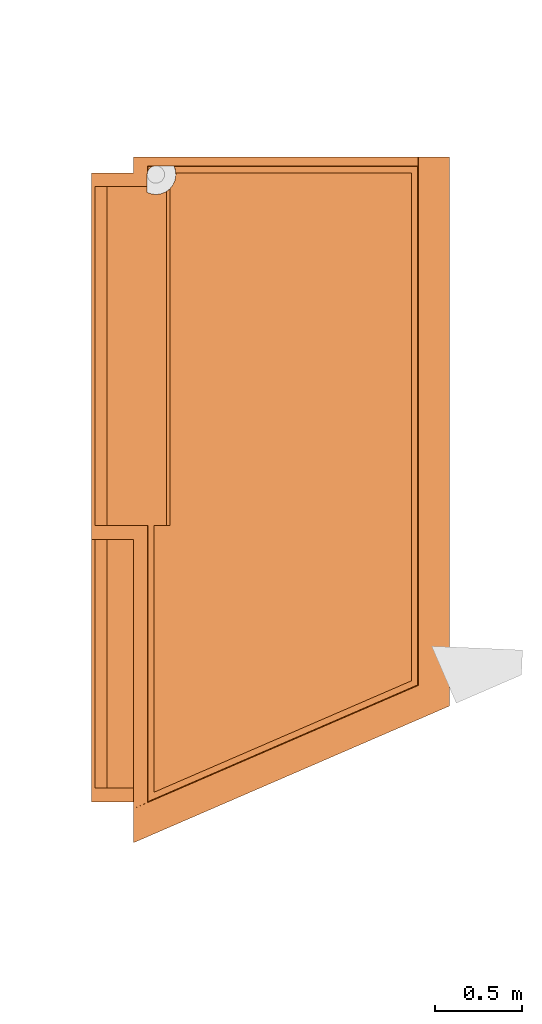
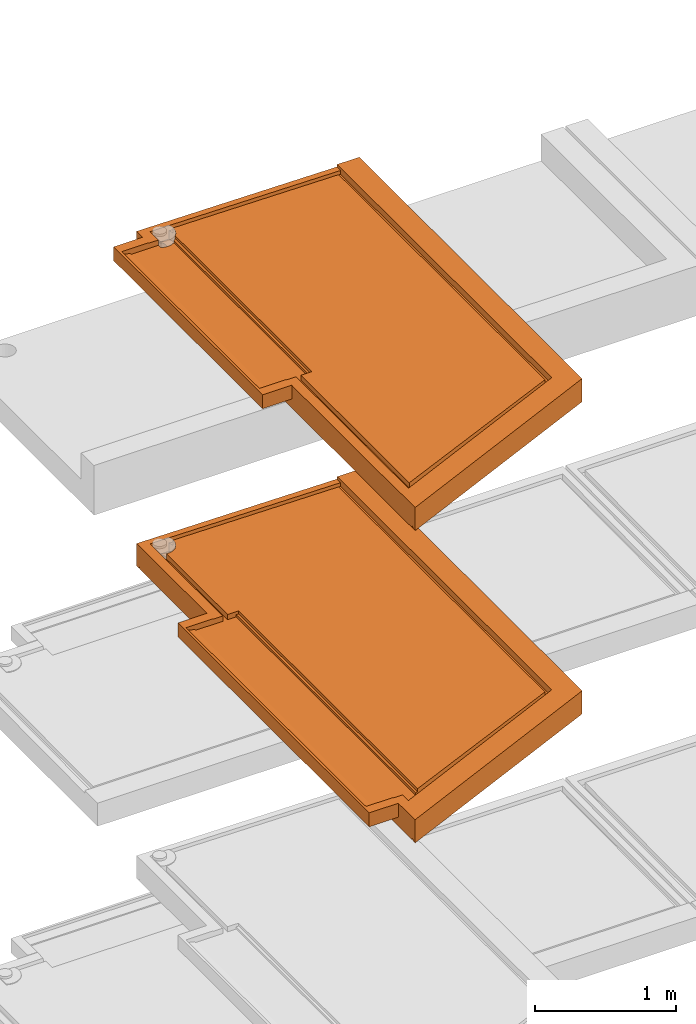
# One storey, part 5 of 31: 2 proxies, 2 elements without a shape of their own.
"""IFC2X3 building model written with IfcOpenShell, lengths in centimetres."""

from ifc_helpers import new_model, entity, si_unit, converted_unit, derived_unit, direction, frame, origin, place, context, subcontext, project, spatial, faceted_brep, source, transform, mapped, material, type_object, type_shapes, element, aggregate, save


model = new_model("IFC2X3")

# Units and contexts
model_context = context("Model", 3, precision=0.001, world=origin(), true_north=direction((6.12303176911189e-17, 1.0)))
body_context = subcontext(model_context, "Body", "Model", "MODEL_VIEW")
ifc_project = project(units=[si_unit("LENGTHUNIT", "METRE", prefix="CENTI"), si_unit("AREAUNIT", "SQUARE_METRE"), si_unit("VOLUMEUNIT", "CUBIC_METRE"), converted_unit("PLANEANGLEUNIT", "DEGREE", entity("IfcRatioMeasure", 0.0174532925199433), si_unit("PLANEANGLEUNIT", "RADIAN"), dimensions=[0, 0, 0, 0, 0, 0, 0]), si_unit("MASSUNIT", "GRAM", prefix="KILO"), derived_unit("MASSDENSITYUNIT", [(si_unit("MASSUNIT", "GRAM", prefix="KILO"), 1), (si_unit("LENGTHUNIT", "METRE"), -3)]), si_unit("TIMEUNIT", "SECOND"), si_unit("FREQUENCYUNIT", "HERTZ"), si_unit("THERMODYNAMICTEMPERATUREUNIT", "DEGREE_CELSIUS"), derived_unit("THERMALTRANSMITTANCEUNIT", [(si_unit("MASSUNIT", "GRAM", prefix="KILO"), 1), (si_unit("THERMODYNAMICTEMPERATUREUNIT", "KELVIN"), -1), (si_unit("TIMEUNIT", "SECOND"), -3)]), derived_unit("VOLUMETRICFLOWRATEUNIT", [(si_unit("LENGTHUNIT", "METRE"), 3), (si_unit("TIMEUNIT", "SECOND"), -1)]), si_unit("ELECTRICCURRENTUNIT", "AMPERE"), si_unit("ELECTRICVOLTAGEUNIT", "VOLT"), si_unit("POWERUNIT", "WATT"), si_unit("FORCEUNIT", "NEWTON"), si_unit("ILLUMINANCEUNIT", "LUX"), si_unit("LUMINOUSFLUXUNIT", "LUMEN"), si_unit("LUMINOUSINTENSITYUNIT", "CANDELA"), derived_unit("USERDEFINED", [(si_unit("MASSUNIT", "GRAM", prefix="KILO"), -1), (si_unit("LENGTHUNIT", "METRE"), -2), (si_unit("TIMEUNIT", "SECOND"), 3), (si_unit("LUMINOUSFLUXUNIT", "LUMEN"), 1)]), derived_unit("LINEARVELOCITYUNIT", [(si_unit("LENGTHUNIT", "METRE"), 1), (si_unit("TIMEUNIT", "SECOND"), -1)]), si_unit("PRESSUREUNIT", "PASCAL"), derived_unit("USERDEFINED", [(si_unit("LENGTHUNIT", "METRE"), -2), (si_unit("MASSUNIT", "GRAM", prefix="KILO"), 1), (si_unit("TIMEUNIT", "SECOND"), -2)])], contexts=[model_context])

# Site, building, storey
site_placement = place(None, origin())
site = spatial("IfcSite", under=ifc_project, at=site_placement, Name="Default", CompositionType="ELEMENT")
building_placement = place(site_placement, origin())
building = spatial("IfcBuilding", under=site, at=building_placement, Name="CAGE 03", CompositionType="ELEMENT")
storey_placement = place(building_placement, frame((0.0, 0.0, -400.0)))
storey = spatial("IfcBuildingStorey", under=building, at=storey_placement, Name="±0.00", CompositionType="ELEMENT", Elevation=-400.0)

# Assembly, proxy
assembly_1_placement = place(storey_placement, origin())
assembly_1 = element("IfcElementAssembly", 1, at=assembly_1_placement, inside=storey, Name="Assemblage Modèles génériques:BALCON TYPE 06", ObjectType="Assemblage Modèles génériques:BALCON TYPE 06", AssemblyPlace="NOTDEFINED", PredefinedType="USERDEFINED")
ifc_material = material(Name="Béton, panneaux préfa 30/37")
building_element_proxy_type_1 = type_object("IfcBuildingElementProxyType", Name="balcon préfa type 06", PredefinedType="NOTDEFINED", material=ifc_material)
shared_shape_1 = source(origin(), body_context, "Body", "Brep", [
    faceted_brep([(2.0, 31.6000000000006, 20.0), (2.0, 31.6000000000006, 17.4999999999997), (2.0, 286.600000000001, 17.4999999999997), (2.0, 286.600000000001, 20.0), (0.0, 23.6000000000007, 8.0), (0.0, 23.6000000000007, 20.0), (0.0, 294.600000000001, 20.0), (0.0, 294.600000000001, 8.0), (8.0, 23.6000000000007, 8.0), (8.0, 294.600000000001, 8.0), (24.0, 294.600000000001, 8.0), (24.0, 23.6000000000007, 8.0), (24.0, 0.0, 0.0), (24.0, 3.26884759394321, 0.0), (26.0, 4.13432487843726, 0.0), (203.0, 80.7290645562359, 0.0), (203.0, 391.6, 0.0), (26.0, 391.6, 0.0), (24.0, 391.6, 0.0), (24.0, 394.6, 0.0), (26.0, 394.6, 0.0), (206.0, 394.6, 0.0), (206.0, 78.7584328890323, 0.0), (26.0, 0.865477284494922, 0.0), (26.0, 5.2239407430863, 0.0), (34.5000000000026, 380.269872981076, 0.0), (35.7059047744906, 379.770370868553, 0.0), (24.0, 4.35846345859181, 0.0), (37.0, 379.599999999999, 0.0), (202.0, 81.3859417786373, 0.0), (33.46446609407, 381.064466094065, 0.0), (24.0, 390.6, 0.0), (32.6698729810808, 382.099999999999, 0.0), (32.1703708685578, 383.305904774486, 0.0), (32.0, 384.599999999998, 0.0), (26.0, 390.6, 0.0), (32.1703708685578, 385.894095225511, 0.0), (32.6698729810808, 387.099999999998, 0.0), (33.46446609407, 388.135533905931, 0.0), (34.5000000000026, 388.93012701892, 0.0), (35.7059047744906, 389.429629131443, 0.0), (37.0, 389.599999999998, 0.0), (202.0, 390.6, 0.0), (39.5000000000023, 380.269872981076, 0.0), (40.5355339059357, 381.064466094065, 0.0), (41.3301270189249, 382.099999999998, 0.0), (41.8296291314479, 383.305904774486, 0.0), (42.0, 384.599999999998, 0.0), (38.2940952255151, 389.429629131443, 0.0), (39.5000000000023, 388.93012701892, 0.0), (40.5355339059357, 388.135533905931, 0.0), (41.3301270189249, 387.099999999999, 0.0), (41.8296291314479, 385.894095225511, 0.0), (38.2940952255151, 379.770370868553, 0.0), (206.0, 78.7584328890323, 20.0), (206.0, 394.6, 20.0), (188.0, 394.6, 20.0), (187.822534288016, 394.6, 17.9715576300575), (187.822534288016, 389.422534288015, 17.9715576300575), (187.562556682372, 389.162556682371, 15.0), (187.562556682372, 90.8695694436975, 15.0), (188.0, 90.5822228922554, 20.0), (24.0, 31.6000000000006, 20.0), (24.0, 31.6000000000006, 19.6099582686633), (32.0411600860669, 31.6000000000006, 19.5295380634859), (32.4374433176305, 31.6000000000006, 15.0), (9.0, 31.6000000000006, 15.0), (9.0, 31.6000000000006, 15.9713250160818), (44.9990594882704, 33.0586535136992, 16.8998201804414), (45.0240609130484, 33.0694725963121, 19.3996951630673), (45.0240609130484, 286.600000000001, 19.3996951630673), (44.9990594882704, 286.600000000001, 16.8998201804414), (43.0, 32.1935832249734, 16.9198129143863), (43.0, 286.600000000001, 16.9198129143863), (24.0, 394.6, 19.6099582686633), (26.0, 394.6, 19.589956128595), (32.4374433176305, 23.7409385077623, 15.0), (32.0411600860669, 23.1376549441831, 19.5295380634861), (26.0, 20.5176519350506, 19.589956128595), (24.0, 19.65026786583, 19.6099582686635), (24.0, 19.6130855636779, 20.0), (26.0, 20.4785628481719, 20.0), (184.0, 93.2097317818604, 15.0), (184.0, 385.6, 15.0), (184.0, 385.6, 18.0097870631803), (184.0, 93.2097317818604, 18.0097870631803), (203.0, 80.7290645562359, 1.0), (203.0, 391.6, 1.0), (43.0, 32.1935832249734, 15.0), (43.0, 286.600000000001, 15.0), (48.4564392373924, 385.6, 15.0), (48.4564392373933, 385.6, 19.3653677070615), (34.9547429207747, 389.162556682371, 15.0), (35.2874144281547, 389.297557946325, 16.5430715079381), (35.6289157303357, 389.408339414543, 17.8093094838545), (35.9774861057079, 389.49432991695, 18.7921854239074), (36.3313283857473, 389.555086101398, 19.486631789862), (32.0411600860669, 389.558839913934, 19.5295380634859), (32.4374433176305, 389.162556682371, 15.0), (47.3823337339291, 389.545416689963, 19.3761099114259), (47.4045028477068, 389.497757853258, 18.8313669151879), (47.4266719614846, 389.450099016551, 18.2866239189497), (47.4710101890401, 389.35478134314, 17.1971379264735), (47.556186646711, 389.162556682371, 15.0), (36.0, 373.143560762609, 19.4899454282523), (36.0, 373.143560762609, 15.0), (36.0, 286.600000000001, 15.0), (36.0, 286.600000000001, 19.4899454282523), (32.4374433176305, 374.04381335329, 15.0), (32.3379459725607, 374.087940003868, 16.1372598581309), (32.2384486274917, 374.132066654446, 17.2745197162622), (32.1398043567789, 374.178068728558, 18.4020288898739), (32.0904822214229, 374.201069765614, 18.9657834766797), (32.0658211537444, 374.212570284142, 19.2476607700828), (32.0411600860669, 374.224070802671, 19.5295380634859), (32.0411600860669, 286.600000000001, 19.5295380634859), (32.4374433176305, 286.600000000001, 15.0), (32.041160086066, 385.24023957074, 19.5295380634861), (32.1013167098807, 385.601449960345, 18.8419447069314), (32.1877482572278, 385.957288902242, 17.8540276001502), (32.299991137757, 386.305847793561, 16.5710856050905), (32.4374433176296, 386.645257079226, 15.0), (9.0, 286.600000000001, 15.9713250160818), (24.0, 0.0, 20.0), (26.0, 0.865477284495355, 20.0), (24.0, 23.6000000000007, 20.0), (24.0, 286.600000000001, 20.0), (24.0, 294.600000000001, 20.0), (8.0, 294.600000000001, 20.0), (8.0, 23.6000000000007, 20.0), (24.0, 23.6000000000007, 19.6099582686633), (24.0, 294.600000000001, 19.6099582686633), (24.0, 391.6, 1.0), (24.0, 390.6, 1.46630765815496), (24.0, 4.35846345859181, 1.46630765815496), (24.0, 3.26884759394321, 1.0), (48.3490385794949, 382.742764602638, 19.3664418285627), (47.5400717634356, 380.000338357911, 19.3745323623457), (46.0795468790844, 377.542250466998, 19.3891391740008), (44.057749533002, 375.520453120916, 19.4093593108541), (41.5996616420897, 374.059928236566, 19.4339428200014), (38.8572353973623, 373.250961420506, 19.4613700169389), (24.0, 286.600000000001, 19.6099582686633), (32.0205702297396, 374.233936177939, 19.5297439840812), (32.0, 374.243842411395, 19.5299497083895), (32.0, 384.599999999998, 19.5299497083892), (32.0103006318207, 384.92078063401, 19.5298466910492), (36.6649108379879, 389.588758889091, 19.483295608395), (37.0, 389.599999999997, 19.479944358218), (47.3561575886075, 389.599999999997, 19.3763717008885), (47.3692815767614, 389.572725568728, 19.3762404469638), (9.0, 286.600000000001, 15.0), (202.0, 81.3859417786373, 1.46630765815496), (202.0, 390.6, 1.46630765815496), (34.1825325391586, 373.450476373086, 15.0), (48.1495236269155, 387.417467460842, 15.0), (33.0625490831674, 387.681635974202, 15.0), (33.9183640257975, 388.537450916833, 15.0), (26.0, 4.13432487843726, 1.0), (26.0, 5.2239407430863, 1.46630765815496), (26.0, 391.6, 1.0), (26.0, 390.6, 1.46630765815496), (34.6842282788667, 373.335578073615, 7.69999999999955), (37.5090668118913, 373.111272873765, 7.69999999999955), (40.3029955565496, 373.584546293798, 7.69999999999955), (42.8963712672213, 374.726661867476, 7.69999999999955), (45.1317279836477, 376.468272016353, 7.69999999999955), (46.873338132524, 378.703628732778, 7.69999999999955), (48.0154537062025, 381.297004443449, 7.69999999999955), (48.4887271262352, 384.090933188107, 7.69999999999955), (48.2644219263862, 386.915771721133, 7.69999999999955), (47.3561575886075, 389.599999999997, 7.69999999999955), (37.0, 389.599999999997, 7.69999999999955), (38.2940952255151, 389.429629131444, 7.69999999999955), (39.5000000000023, 388.930127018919, 7.69999999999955), (40.5355339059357, 388.13553390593, 7.69999999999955), (41.3301270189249, 387.099999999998, 7.69999999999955), (41.8296291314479, 385.894095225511, 7.69999999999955), (42.0, 384.599999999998, 7.69999999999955), (41.8296291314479, 383.305904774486, 7.69999999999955), (41.3301270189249, 382.099999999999, 7.69999999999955), (40.5355339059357, 381.064466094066, 7.69999999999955), (39.5000000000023, 380.269872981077, 7.69999999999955), (38.2940952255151, 379.770370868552, 7.69999999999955), (37.0, 379.599999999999, 7.69999999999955), (35.7059047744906, 379.770370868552, 7.69999999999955), (34.5000000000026, 380.269872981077, 7.69999999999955), (33.46446609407, 381.064466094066, 7.69999999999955), (32.6698729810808, 382.099999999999, 7.69999999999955), (32.1703708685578, 383.305904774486, 7.69999999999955), (32.0, 384.599999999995, 7.69999999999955), (32.0, 374.243842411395, 7.69999999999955), (32.0, 374.243842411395, 19.160261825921), (32.0, 374.243842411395, 18.7905808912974), (32.0, 374.243842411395, 18.0512051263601), (32.0, 374.243842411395, 16.5724674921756), (32.0, 374.243842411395, 15.0937229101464), (32.0, 374.243842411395, 13.6149783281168), (47.3561575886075, 389.599999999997, 18.646598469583), (47.3561575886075, 389.599999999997, 17.9168252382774), (47.3561575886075, 389.599999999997, 13.538185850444), (47.3561575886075, 389.599999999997, 16.4572787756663), (47.3561575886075, 389.599999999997, 14.9977323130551)], [[[0, 1, 2, 3]], [[4, 5, 6, 7]], [[8, 4, 7, 9, 10, 11]], [[12, 13, 14, 15, 16, 17, 18, 19, 20, 21, 22, 23]], [[12, 13, 23]], [[23, 13, 14]], [[15, 23, 14]], [[15, 22, 23]], [[22, 15, 16]], [[16, 21, 22]], [[16, 20, 21]], [[17, 20, 16]], [[18, 20, 17]], [[18, 19, 20]], [[24, 25, 26]], [[25, 24, 27]], [[24, 26, 28]], [[28, 29, 24]], [[30, 25, 27]], [[31, 30, 27]], [[31, 32, 30]], [[31, 33, 32]], [[34, 33, 31]], [[35, 34, 31]], [[36, 34, 35]], [[37, 36, 35]], [[35, 38, 37]], [[39, 38, 35]], [[35, 40, 39]], [[41, 40, 35]], [[41, 35, 42]], [[42, 29, 43]], [[42, 43, 44]], [[42, 44, 45]], [[42, 45, 46]], [[42, 46, 47]], [[42, 48, 41]], [[48, 42, 49]], [[50, 49, 42]], [[50, 42, 51]], [[52, 51, 42]], [[42, 47, 52]], [[28, 53, 29]], [[43, 29, 53]], [[54, 22, 21, 55]], [[56, 57, 58, 59, 60, 61]], [[1, 0, 62, 63, 64, 65, 66, 67]], [[68, 69, 70, 71]], [[72, 68, 71, 73]], [[20, 19, 74, 75, 57, 56, 55, 21]], [[60, 76, 77, 78, 79, 80, 81, 61]], [[82, 83, 84, 85]], [[86, 87, 16, 15]], [[88, 72, 73, 89]], [[84, 83, 90, 91]], [[92, 93, 94, 95, 96, 97, 98]], [[59, 58, 99, 100, 101, 102, 103]], [[104, 105, 106, 107]], [[108, 109, 110, 111, 112, 113, 114, 115, 116]], [[64, 77, 76, 65]], [[97, 117, 118, 119, 120, 121, 98]], [[1, 67, 122, 2]], [[56, 61, 81, 80, 123, 124, 54, 55]], [[125, 62, 0, 3, 126, 127, 128, 6, 5, 129]], [[123, 80, 79, 130, 11, 10, 131, 74, 19, 18, 132, 133, 31, 27, 134, 135, 13, 12]], [[78, 77, 64, 63, 130, 79]], [[69, 85, 84, 91, 136, 137, 138, 139, 140, 141, 104, 107, 70]], [[131, 142, 115, 114, 143, 144, 145, 146, 117, 97, 96, 147, 148, 149, 150, 99, 58, 57, 75, 74]], [[122, 151, 116, 115, 142, 126, 3, 2]], [[107, 106, 89, 73, 71, 70]], [[152, 29, 42, 153]], [[86, 152, 153, 87]], [[67, 66, 151, 122]], [[88, 89, 106, 105, 154, 108, 116, 151, 66, 65, 76, 60, 59, 103, 155, 90, 83, 82]], [[121, 156, 157, 92, 98]], [[15, 14, 13, 135, 158, 86]], [[159, 134, 27, 24, 29, 152]], [[152, 86, 158, 135, 134, 159]], [[22, 54, 124, 123, 12, 23]], [[127, 126, 142, 131]], [[62, 125, 130, 63]], [[18, 17, 16, 87, 160, 132]], [[161, 153, 42, 35, 31, 133]], [[160, 87, 153, 161, 133, 132]], [[128, 127, 131, 10, 9, 7, 6]], [[129, 5, 4, 8, 11, 130, 125]], [[69, 68, 72, 88, 82, 85]], [[162, 163, 164, 165, 166, 167, 168, 169, 170, 171, 172, 173, 174, 175, 176, 177, 178, 179, 180, 181, 182, 183, 184, 185, 186, 187, 188, 189, 190, 191]], [[145, 144, 192, 193, 194, 195, 196, 197, 191, 190]], [[154, 162, 191]], [[111, 110, 194]], [[154, 197, 108]], [[154, 105, 162]], [[109, 195, 110]], [[164, 163, 141]], [[163, 105, 141]], [[162, 105, 163]], [[140, 165, 164]], [[198, 199, 101]], [[149, 198, 100]], [[193, 192, 112]], [[193, 111, 194]], [[197, 154, 191]], [[112, 111, 193]], [[140, 164, 141]], [[113, 112, 192]], [[143, 114, 113]], [[141, 105, 104]], [[140, 139, 165]], [[113, 192, 143]], [[139, 166, 165]], [[167, 137, 168]], [[166, 138, 167]], [[169, 168, 136]], [[170, 200, 171]], [[195, 194, 110]], [[170, 90, 155]], [[200, 170, 155]], [[169, 90, 170]], [[136, 90, 169]], [[108, 196, 109]], [[91, 90, 136]], [[100, 150, 149]], [[137, 167, 138]], [[102, 201, 103]], [[136, 168, 137]], [[103, 201, 202, 200]], [[155, 103, 200]], [[199, 201, 102]], [[199, 102, 101]], [[101, 100, 198]], [[100, 99, 150]], [[144, 143, 192]], [[108, 197, 196]], [[195, 109, 196]], [[139, 138, 166]], [[172, 171, 200, 202, 201, 199, 198, 149, 148]], [[32, 33, 189, 188]], [[32, 188, 187, 30]], [[26, 25, 186, 185]], [[187, 186, 25, 30]], [[28, 26, 185, 184]], [[34, 190, 189, 33]], [[43, 53, 183, 182]], [[43, 182, 181, 44]], [[46, 45, 180, 179]], [[181, 180, 45, 44]], [[47, 46, 179, 178]], [[184, 183, 53, 28]], [[52, 177, 176, 51]], [[47, 178, 177, 52]], [[48, 49, 174, 173]], [[50, 51, 176, 175]], [[50, 175, 174, 49]], [[173, 172, 41, 48]], [[96, 95, 172]], [[172, 95, 40]], [[148, 147, 172]], [[96, 172, 147]], [[40, 41, 172]], [[92, 39, 40]], [[39, 92, 157]], [[157, 38, 39]], [[93, 92, 40]], [[190, 34, 36]], [[37, 38, 156]], [[37, 121, 36]], [[157, 156, 38]], [[36, 118, 190]], [[37, 156, 121]], [[40, 94, 93]], [[121, 120, 36]], [[118, 36, 119]], [[118, 117, 190]], [[119, 36, 120]], [[117, 146, 190]], [[190, 146, 145]], [[95, 94, 40]]]),
])
type_shapes(building_element_proxy_type_1, [shared_shape_1])
proxy_1_placement = place(assembly_1_placement, frame((4654.36582014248, 3676.56066607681, 1530.0)))
proxy_1 = element("IfcBuildingElementProxy", 2, at=proxy_1_placement, type_object=building_element_proxy_type_1, material=ifc_material, Name="BY_STR_Balcon_préfa_06:balcon préfa type 06", ObjectType="balcon préfa type 06", context=body_context, shape_type="MappedRepresentation", body=[
    mapped(shared_shape_1, transform((0.0, 0.0, 0.0), scale=1.0)),
])
aggregate(assembly_1, [proxy_1])

assembly_2_placement = place(storey_placement, origin())
assembly_2 = element("IfcElementAssembly", 3, at=assembly_2_placement, inside=storey, Name="Assemblage Modèles génériques:BALCON TYPE 07", ObjectType="Assemblage Modèles génériques:BALCON TYPE 07", AssemblyPlace="NOTDEFINED", PredefinedType="USERDEFINED")
building_element_proxy_type_2 = type_object("IfcBuildingElementProxyType", Name="balcon préfa type 07", PredefinedType="NOTDEFINED", material=ifc_material)
shared_shape_2 = source(origin(), body_context, "Body", "Brep", [
    faceted_brep([(24.0, 0.0, 20.0), (24.0, 19.613085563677, 20.0), (24.0, 19.6502678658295, 19.6099582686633), (24.0, 174.600000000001, 19.6099582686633), (24.0, 174.600000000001, 8.0), (24.0, 385.600000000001, 8.0), (24.0, 385.600000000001, 19.6099582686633), (24.0, 394.6, 19.6099582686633), (24.0, 394.6, 0.0), (24.0, 391.6, 0.0), (24.0, 391.6, 1.0), (24.0, 390.6, 1.46630765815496), (24.0, 390.6, 0.0), (24.0, 4.35846345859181, 0.0), (24.0, 4.35846345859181, 1.46630765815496), (24.0, 3.26884759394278, 1.0), (24.0, 3.26884759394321, 0.0), (24.0, 0.0, 0.0), (26.0, 4.13432487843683, 0.0), (203.0, 80.7290645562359, 0.0), (203.0, 391.6, 0.0), (26.0, 391.6, 0.0), (26.0, 394.6, 0.0), (206.0, 394.6, 0.0), (206.0, 78.7584328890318, 0.0), (26.0, 0.865477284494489, 0.0), (26.0, 5.22394074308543, 0.0), (34.4999999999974, 380.26987298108, 0.0), (35.7059047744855, 379.770370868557, 0.0), (37.0, 379.600000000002, 0.0), (202.0, 81.3859417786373, 0.0), (33.4644660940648, 381.064466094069, 0.0), (32.6698729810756, 382.100000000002, 0.0), (32.1703708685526, 383.30590477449, 0.0), (32.0, 384.600000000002, 0.0), (26.0, 390.6, 0.0), (32.1703708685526, 385.894095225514, 0.0), (32.6698729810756, 387.100000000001, 0.0), (33.4644660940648, 388.135533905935, 0.0), (34.4999999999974, 388.930127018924, 0.0), (35.7059047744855, 389.429629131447, 0.0), (37.0, 389.600000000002, 0.0), (202.0, 390.6, 0.0), (39.4999999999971, 380.26987298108, 0.0), (40.5355339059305, 381.064466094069, 0.0), (41.3301270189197, 382.100000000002, 0.0), (41.8296291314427, 383.30590477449, 0.0), (42.0, 384.600000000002, 0.0), (38.2940952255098, 389.429629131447, 0.0), (39.4999999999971, 388.930127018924, 0.0), (40.5355339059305, 388.135533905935, 0.0), (41.3301270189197, 387.100000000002, 0.0), (41.8296291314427, 385.894095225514, 0.0), (38.2940952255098, 379.770370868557, 0.0), (188.0, 394.6, 20.0), (187.822534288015, 394.6, 17.9715576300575), (187.822534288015, 389.422534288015, 17.9715576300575), (187.562556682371, 389.162556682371, 15.0), (187.562556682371, 90.8695694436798, 15.0), (188.0, 90.582222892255, 20.0), (2.0, 182.600000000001, 17.4999999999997), (2.0, 182.600000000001, 20.0), (24.0, 182.600000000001, 20.0), (24.0, 182.600000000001, 19.6099582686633), (26.0, 182.600000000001, 19.5899561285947), (32.0411600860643, 182.600000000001, 19.5295380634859), (32.4374433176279, 182.600000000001, 15.0), (9.0, 182.600000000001, 15.0), (9.0, 182.600000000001, 15.9713250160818), (36.0, 182.600000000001, 19.4899454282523), (45.0240609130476, 182.600000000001, 19.3996951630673), (44.9990594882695, 182.600000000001, 16.8998201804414), (43.0, 182.600000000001, 16.9198129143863), (43.0, 182.600000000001, 15.0), (36.0, 182.600000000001, 15.0), (202.0, 81.3859417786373, 1.46630765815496), (202.0, 390.6, 1.46630765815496), (203.0, 80.7290645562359, 1.0), (203.0, 391.6, 1.0), (9.0, 377.600000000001, 15.9713250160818), (2.0, 377.600000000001, 17.4999999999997), (9.0, 377.600000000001, 15.0), (36.0, 29.1644127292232, 15.0), (43.0, 374.789291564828, 15.0), (40.389878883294, 373.610972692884, 15.0), (37.5695425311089, 373.114112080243, 15.0), (34.713887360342, 373.32952135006, 15.0), (32.0, 374.243842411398, 15.0), (32.0, 377.600000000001, 15.0), (32.4374433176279, 23.7409385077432, 15.0), (47.5561866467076, 389.162556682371, 15.0), (48.1495236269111, 387.417467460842, 15.0), (48.4564392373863, 385.6, 15.0), (184.0, 385.6, 15.0), (184.0, 93.2097317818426, 15.0), (32.4374433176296, 386.645257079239, 15.0), (33.0625490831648, 387.681635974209, 15.0), (33.9183640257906, 388.537450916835, 15.0), (34.9547429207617, 389.162556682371, 15.0), (32.4374433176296, 389.162556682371, 15.0), (184.0, 385.6, 18.0097870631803), (48.4564392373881, 385.6, 19.3653677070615), (8.0, 385.600000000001, 20.0), (24.0, 385.600000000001, 20.0), (8.0, 385.600000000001, 8.0), (0.0, 385.600000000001, 8.0), (0.0, 385.600000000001, 20.0), (26.0, 20.4785628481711, 20.0), (26.0, 0.865477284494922, 20.0), (206.0, 78.7584328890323, 20.0), (206.0, 394.6, 20.0), (24.0, 174.600000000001, 20.0), (2.0, 377.600000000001, 20.0), (24.0, 377.600000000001, 20.0), (0.0, 174.600000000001, 20.0), (8.0, 174.600000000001, 20.0), (35.2874144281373, 389.297557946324, 16.5430715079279), (35.628915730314, 389.408339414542, 17.8093094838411), (35.9774861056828, 389.494329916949, 18.7921854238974), (36.3313283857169, 389.555086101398, 19.4866317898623), (32.041160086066, 389.558839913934, 19.5295380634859), (47.3823337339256, 389.545416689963, 19.3761099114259), (47.4045028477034, 389.497757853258, 18.8313669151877), (47.4266719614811, 389.450099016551, 18.2866239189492), (47.4710101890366, 389.35478134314, 17.1971379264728), (184.0, 93.2097317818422, 18.0097870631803), (26.0, 20.5176519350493, 19.589956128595), (32.0411600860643, 23.1376549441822, 19.5295380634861), (48.3963870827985, 383.059752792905, 19.3659682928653), (47.7799618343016, 380.594700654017, 19.3721332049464), (46.6372574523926, 378.325187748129, 19.3835614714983), (45.0240609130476, 376.362011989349, 19.3996951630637), (36.0, 29.1644127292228, 19.4899454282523), (32.0103006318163, 384.920780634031, 19.5298466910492), (32.0411600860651, 385.240239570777, 19.5295380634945), (36.6649108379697, 389.588758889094, 19.4832956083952), (37.0, 389.600000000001, 19.479944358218), (47.3561575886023, 389.600000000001, 19.3763717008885), (47.369281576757, 389.572725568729, 19.3762404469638), (26.0, 394.6, 19.589956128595), (24.0, 377.600000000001, 19.6099582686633), (26.0, 377.600000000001, 19.589956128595), (32.0, 377.600000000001, 19.5299497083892), (32.0, 384.600000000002, 19.5299497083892), (45.0115693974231, 376.349863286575, 18.150677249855), (44.9990594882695, 376.337733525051, 16.8998201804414), (44.0422180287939, 375.508401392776, 16.9093896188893), (43.0, 374.789291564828, 16.9198129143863), (32.1013167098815, 385.601449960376, 18.8419447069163), (32.1877482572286, 385.957288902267, 17.8540276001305), (32.299991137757, 386.30584779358, 16.571085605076), (0.0, 174.600000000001, 8.0), (8.0, 174.600000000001, 8.0), (26.0, 391.6, 1.0), (26.0, 390.6, 1.46630765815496), (26.0, 4.13432487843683, 1.0), (26.0, 5.22394074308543, 1.46630765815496), (34.6842282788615, 373.335578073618, 7.69999999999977), (37.5090668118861, 373.111272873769, 7.69999999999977), (40.3029955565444, 373.584546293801, 7.69999999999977), (42.8963712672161, 374.72666186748, 7.69999999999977), (45.1317279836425, 376.468272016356, 7.69999999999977), (46.8733381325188, 378.703628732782, 7.69999999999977), (48.0154537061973, 381.297004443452, 7.69999999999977), (48.48872712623, 384.090933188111, 7.69999999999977), (48.264421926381, 386.915771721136, 7.69999999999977), (47.3561575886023, 389.600000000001, 7.69999999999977), (37.0, 389.600000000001, 7.69999999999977), (38.2940952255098, 389.429629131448, 7.69999999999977), (39.4999999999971, 388.930127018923, 7.69999999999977), (40.5355339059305, 388.135533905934, 7.69999999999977), (41.3301270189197, 387.100000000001, 7.69999999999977), (41.8296291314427, 385.894095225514, 7.69999999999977), (42.0, 384.600000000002, 7.69999999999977), (41.8296291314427, 383.30590477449, 7.69999999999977), (41.3301270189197, 382.100000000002, 7.69999999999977), (40.5355339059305, 381.06446609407, 7.69999999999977), (39.4999999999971, 380.269872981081, 7.69999999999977), (38.2940952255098, 379.770370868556, 7.69999999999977), (37.0, 379.600000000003, 7.69999999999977), (35.7059047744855, 379.770370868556, 7.69999999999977), (34.4999999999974, 380.269872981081, 7.69999999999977), (33.4644660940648, 381.06446609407, 7.69999999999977), (32.6698729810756, 382.100000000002, 7.69999999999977), (32.1703708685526, 383.30590477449, 7.69999999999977), (32.0, 384.599999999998, 7.69999999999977), (32.0, 374.243842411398, 7.69999999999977), (47.3561575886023, 389.600000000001, 17.9168252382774), (47.3561575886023, 389.600000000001, 16.4572787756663), (47.3561575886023, 389.600000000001, 18.646598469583), (47.3561575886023, 389.600000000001, 13.538185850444), (47.3561575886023, 389.600000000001, 14.9977323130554)], [[[0, 1, 2, 3, 4, 5, 6, 7, 8, 9, 10, 11, 12, 13, 14, 15, 16, 17]], [[17, 16, 18, 19, 20, 21, 9, 8, 22, 23, 24, 25]], [[17, 16, 25]], [[25, 16, 18]], [[19, 25, 18]], [[19, 24, 25]], [[24, 19, 20]], [[20, 23, 24]], [[20, 22, 23]], [[21, 22, 20]], [[9, 22, 21]], [[9, 8, 22]], [[26, 27, 28]], [[27, 26, 13]], [[26, 28, 29]], [[29, 30, 26]], [[31, 27, 13]], [[12, 31, 13]], [[12, 32, 31]], [[12, 33, 32]], [[34, 33, 12]], [[35, 34, 12]], [[36, 34, 35]], [[37, 36, 35]], [[35, 38, 37]], [[39, 38, 35]], [[35, 40, 39]], [[41, 40, 35]], [[41, 35, 42]], [[42, 30, 43]], [[42, 43, 44]], [[42, 44, 45]], [[42, 45, 46]], [[42, 46, 47]], [[42, 48, 41]], [[48, 42, 49]], [[50, 49, 42]], [[50, 42, 51]], [[52, 51, 42]], [[42, 47, 52]], [[29, 53, 30]], [[43, 30, 53]], [[54, 55, 56, 57, 58, 59]], [[60, 61, 62, 63, 64, 65, 66, 67, 68]], [[69, 70, 71, 72, 73, 74]], [[75, 30, 42, 76]], [[77, 75, 76, 78]], [[60, 68, 79, 80]], [[68, 67, 81, 79]], [[82, 74, 73, 83, 84, 85, 86, 87, 88, 81, 67, 66, 89, 58, 57, 90, 91, 92, 93, 94]], [[95, 96, 97, 98, 99]], [[100, 93, 92, 101]], [[102, 103, 6, 5, 104, 105, 106]], [[54, 59, 107, 1, 0, 108, 109, 110]], [[111, 62, 61, 112, 113, 103, 102, 106, 114, 115]], [[98, 116, 117, 118, 119, 120, 99]], [[57, 56, 121, 122, 123, 124, 90]], [[125, 94, 93, 100]], [[109, 24, 23, 110]], [[126, 127, 65, 64, 63, 3, 2]], [[125, 100, 101, 128, 129, 130, 131, 70, 69, 132]], [[133, 134, 120, 119, 135, 136, 137, 138, 121, 56, 55, 139, 7, 6, 140, 141, 142, 143]], [[71, 70, 131, 144, 145]], [[72, 71, 145, 146, 147]], [[73, 72, 147, 83]], [[22, 8, 7, 139, 55, 54, 110, 23]], [[58, 89, 127, 126, 2, 1, 107, 59]], [[79, 81, 88, 142, 141, 140, 113, 112, 80]], [[19, 77, 78, 20]], [[120, 134, 148, 149, 150, 95, 99]], [[65, 127, 89, 66]], [[24, 109, 108, 0, 17, 25]], [[61, 60, 80, 112]], [[151, 114, 106, 105]], [[152, 151, 105, 104, 5, 4]], [[103, 113, 140, 6]], [[62, 111, 3, 63]], [[9, 21, 20, 78, 153, 10]], [[154, 76, 42, 35, 12, 11]], [[153, 78, 76, 154, 11, 10]], [[155, 77, 19, 18, 16, 15]], [[156, 14, 13, 26, 30, 75]], [[75, 77, 155, 15, 14, 156]], [[115, 114, 151, 152, 4, 3, 111]], [[82, 94, 125, 132]], [[74, 82, 132, 69]], [[157, 158, 159, 160, 161, 162, 163, 164, 165, 166, 167, 168, 169, 170, 171, 172, 173, 174, 175, 176, 177, 178, 179, 180, 181, 182, 183, 184, 185, 186]], [[143, 142, 88, 87, 186, 185]], [[87, 157, 186]], [[157, 87, 86]], [[86, 158, 157]], [[84, 160, 159]], [[159, 158, 85]], [[85, 158, 86]], [[161, 160, 83]], [[84, 159, 85]], [[146, 83, 147]], [[84, 83, 160]], [[187, 188, 124]], [[161, 83, 146]], [[137, 189, 122]], [[145, 144, 130]], [[131, 130, 144]], [[146, 145, 161]], [[161, 145, 162]], [[164, 163, 128]], [[164, 128, 92]], [[162, 129, 163]], [[92, 165, 164]], [[165, 190, 166]], [[90, 188, 191, 190]], [[91, 190, 165]], [[190, 91, 90]], [[92, 91, 165]], [[189, 187, 123]], [[101, 92, 128]], [[129, 162, 130]], [[128, 163, 129]], [[122, 138, 137]], [[123, 187, 124]], [[123, 122, 189]], [[121, 138, 122]], [[124, 188, 90]], [[145, 130, 162]], [[167, 166, 190, 191, 188, 187, 189, 137, 136]], [[32, 33, 184, 183]], [[32, 183, 182, 31]], [[28, 27, 181, 180]], [[182, 181, 27, 31]], [[29, 28, 180, 179]], [[34, 185, 184, 33]], [[43, 53, 178, 177]], [[43, 177, 176, 44]], [[46, 45, 175, 174]], [[176, 175, 45, 44]], [[47, 46, 174, 173]], [[179, 178, 53, 29]], [[52, 172, 171, 51]], [[47, 173, 172, 52]], [[48, 49, 169, 168]], [[50, 51, 171, 170]], [[50, 170, 169, 49]], [[168, 167, 41, 48]], [[119, 118, 167]], [[167, 118, 40]], [[136, 135, 167]], [[119, 167, 135]], [[40, 41, 167]], [[98, 39, 40]], [[39, 98, 97]], [[97, 38, 39]], [[116, 98, 40]], [[185, 34, 36]], [[37, 38, 96]], [[37, 95, 36]], [[97, 96, 38]], [[36, 148, 185]], [[37, 96, 95]], [[40, 117, 116]], [[95, 150, 36]], [[148, 36, 149]], [[148, 134, 185]], [[149, 36, 150]], [[134, 133, 185]], [[185, 133, 143]], [[118, 117, 40]]]),
])
type_shapes(building_element_proxy_type_2, [shared_shape_2])
proxy_2_placement = place(assembly_2_placement, frame((4654.36582014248, 3676.56066607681, 1800.0)))
proxy_2 = element("IfcBuildingElementProxy", 4, at=proxy_2_placement, type_object=building_element_proxy_type_2, material=ifc_material, Name="BY_STR_Balcon_préfa_07:balcon préfa type 07", ObjectType="balcon préfa type 07", context=body_context, shape_type="MappedRepresentation", body=[
    mapped(shared_shape_2, transform((0.0, 0.0, 0.0), scale=1.0)),
])
aggregate(assembly_2, [proxy_2])

save(model, "model.ifc")
